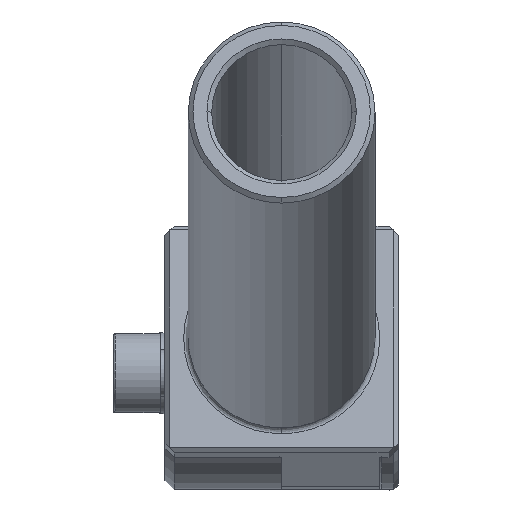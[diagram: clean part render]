
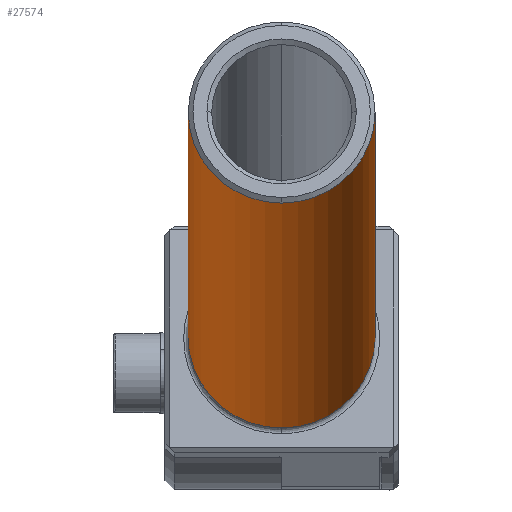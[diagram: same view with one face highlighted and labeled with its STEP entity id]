
A CAD part, left-side view. The second image highlights one B-rep face of the part: STEP entity #27574.
In plain terms, the highlighted cylindrical face has radius 10 mm (diameter 20 mm), a partial arc.
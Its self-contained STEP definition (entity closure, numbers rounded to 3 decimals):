
#454 = EDGE_CURVE ( 'NONE', #3365, #27372, #9349, .T. ) ;
#866 = ORIENTED_EDGE ( 'NONE', *, *, #21809, .F. ) ;
#1091 = VERTEX_POINT ( 'NONE', #8829 ) ;
#1142 = DIRECTION ( 'NONE',  ( -0.97, 0., 0.243 ) ) ;
#1726 = DIRECTION ( 'NONE',  ( -0.97, 0., 0.243 ) ) ;
#2387 = DIRECTION ( 'NONE',  ( 0.97, 0., -0.243 ) ) ;
#2971 = CARTESIAN_POINT ( 'NONE',  ( -153.199, 9.186, 18.229 ) ) ;
#3365 = VERTEX_POINT ( 'NONE', #24010 ) ;
#3795 = EDGE_CURVE ( 'NONE', #5747, #9229, #25720, .T. ) ;
#4013 = DIRECTION ( 'NONE',  ( 0.97, 0., -0.243 ) ) ;
#4907 = ORIENTED_EDGE ( 'NONE', *, *, #21737, .T. ) ;
#5459 = VERTEX_POINT ( 'NONE', #2971 ) ;
#5747 = VERTEX_POINT ( 'NONE', #15747 ) ;
#6375 = CYLINDRICAL_SURFACE ( 'NONE', #13013, 10. ) ;
#7204 = AXIS2_PLACEMENT_3D ( 'NONE', #20751, #7894, #22906 ) ;
#7894 = DIRECTION ( 'NONE',  ( -0.97, 0., 0.243 ) ) ;
#7964 = ORIENTED_EDGE ( 'NONE', *, *, #454, .T. ) ;
#8829 = CARTESIAN_POINT ( 'NONE',  ( -57.173, 9.186, -5.856 ) ) ;
#9111 = ORIENTED_EDGE ( 'NONE', *, *, #3795, .F. ) ;
#9229 = VERTEX_POINT ( 'NONE', #18873 ) ;
#9349 = LINE ( 'NONE', #12286, #20789 ) ;
#10484 = CARTESIAN_POINT ( 'NONE',  ( -150.766, -0.814, 27.929 ) ) ;
#10636 = ORIENTED_EDGE ( 'NONE', *, *, #15807, .F. ) ;
#10698 = CARTESIAN_POINT ( 'NONE',  ( -54.74, 19.186, 3.844 ) ) ;
#11074 = CIRCLE ( 'NONE', #7204, 10. ) ;
#11523 = DIRECTION ( 'NONE',  ( 0., 1., 0. ) ) ;
#12286 = CARTESIAN_POINT ( 'NONE',  ( -150.766, 19.186, 27.929 ) ) ;
#12687 = EDGE_CURVE ( 'NONE', #1091, #27372, #17339, .T. ) ;
#13013 = AXIS2_PLACEMENT_3D ( 'NONE', #13622, #15766, #11523 ) ;
#13141 = EDGE_LOOP ( 'NONE', ( #9111, #866, #10636, #7964, #21925, #4907 ) ) ;
#13269 = DIRECTION ( 'NONE',  ( 0.97, 0., -0.243 ) ) ;
#13330 = CIRCLE ( 'NONE', #23242, 10. ) ;
#13622 = CARTESIAN_POINT ( 'NONE',  ( -150.766, 9.186, 27.929 ) ) ;
#13663 = VECTOR ( 'NONE', #4013, 1000. ) ;
#13994 = CARTESIAN_POINT ( 'NONE',  ( -150.766, 9.186, 27.929 ) ) ;
#14541 = CARTESIAN_POINT ( 'NONE',  ( -150.766, 9.186, 27.929 ) ) ;
#15219 = CARTESIAN_POINT ( 'NONE',  ( -54.74, 9.186, 3.844 ) ) ;
#15747 = CARTESIAN_POINT ( 'NONE',  ( -150.766, -0.814, 27.929 ) ) ;
#15766 = DIRECTION ( 'NONE',  ( 0.97, 0., -0.243 ) ) ;
#15807 = EDGE_CURVE ( 'NONE', #3365, #5459, #13330, .T. ) ;
#16161 = DIRECTION ( 'NONE',  ( -0.243, 0., -0.97 ) ) ;
#16718 = DIRECTION ( 'NONE',  ( -0.243, 0., -0.97 ) ) ;
#17264 = AXIS2_PLACEMENT_3D ( 'NONE', #14541, #1726, #16718 ) ;
#17339 = CIRCLE ( 'NONE', #24929, 10. ) ;
#17357 = DIRECTION ( 'NONE',  ( -0.243, 0., -0.97 ) ) ;
#18873 = CARTESIAN_POINT ( 'NONE',  ( -54.74, -0.814, 3.844 ) ) ;
#20751 = CARTESIAN_POINT ( 'NONE',  ( -54.74, 9.186, 3.844 ) ) ;
#20789 = VECTOR ( 'NONE', #13269, 1000. ) ;
#21737 = EDGE_CURVE ( 'NONE', #1091, #9229, #11074, .T. ) ;
#21809 = EDGE_CURVE ( 'NONE', #5459, #5747, #23479, .T. ) ;
#21925 = ORIENTED_EDGE ( 'NONE', *, *, #12687, .F. ) ;
#22906 = DIRECTION ( 'NONE',  ( 0., -1., 0. ) ) ;
#23242 = AXIS2_PLACEMENT_3D ( 'NONE', #13994, #1142, #16161 ) ;
#23479 = CIRCLE ( 'NONE', #17264, 10. ) ;
#24010 = CARTESIAN_POINT ( 'NONE',  ( -150.766, 19.186, 27.929 ) ) ;
#24929 = AXIS2_PLACEMENT_3D ( 'NONE', #15219, #2387, #17357 ) ;
#25527 = FACE_OUTER_BOUND ( 'NONE', #13141, .T. ) ;
#25720 = LINE ( 'NONE', #10484, #13663 ) ;
#27372 = VERTEX_POINT ( 'NONE', #10698 ) ;
#27574 = ADVANCED_FACE ( 'NONE', ( #25527 ), #6375, .T. ) ;
